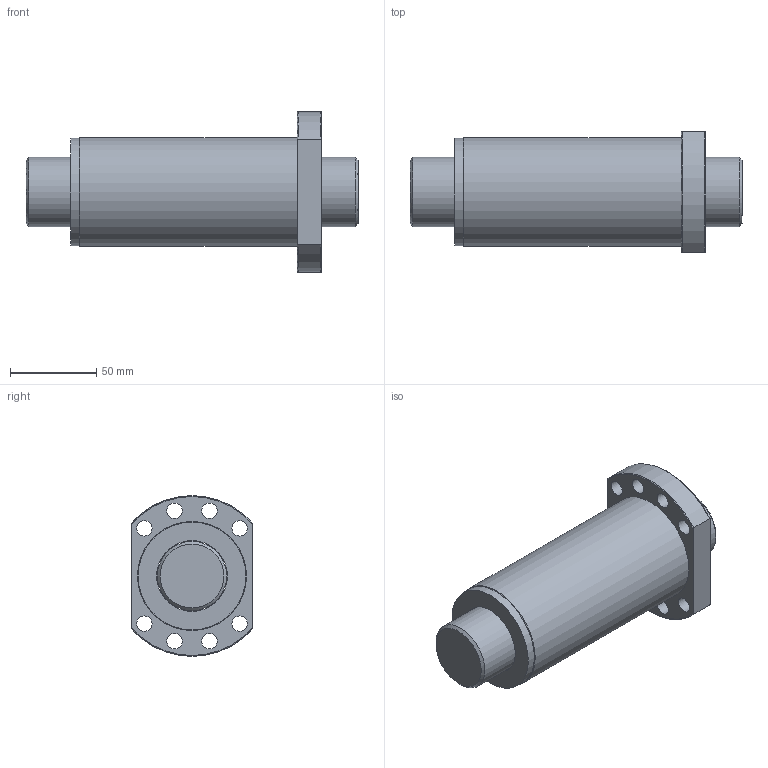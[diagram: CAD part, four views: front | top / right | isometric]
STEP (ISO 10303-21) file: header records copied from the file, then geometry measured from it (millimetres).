
FILE_DESCRIPTION(/* description */ (''),/* implementation_level */ '2;1');
FILE_NAME(/* name */ 'SFS4040-2.8',/* time_stamp */ '2007-10-26T11:26:34+08:00',/* author */ (''),/* organization */ (''),/* preprocessor_version */ 'ST-DEVELOPER v9',/* originating_system */ 'UGS - NX 3.0',/* authorisation */ '');
FILE_SCHEMA (('CONFIG_CONTROL_DESIGN'));
Length unit declared in the file: millimetre
Products named in the file (1): jaso37B0hu8n
Bounding box: 192 x 70 x 93 mm (x, y, z)
Volume: 531925.6 mm3; surface area: 94883.8 mm2
Topology: 4 solids, 4 shells, 37 faces, 78 edges, 51 vertices
Faces by surface type: cylinder 18, plane 12, torus 5, cone 2
Full cylindrical faces by diameter (mm): 9 x8, 40 x1, 41 x3, 62.3 x2, 62.5 x1, 63 x1
Entity records: 1168 total; most frequent: CARTESIAN_POINT 292, DIRECTION 170, ORIENTED_EDGE 118, AXIS2_PLACEMENT_3D 81, EDGE_LOOP 80, FACE_BOUND 60, EDGE_CURVE 59, VERTEX_POINT 51
